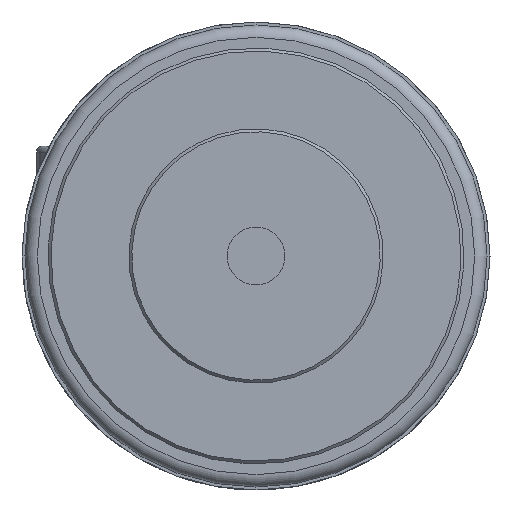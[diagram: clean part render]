
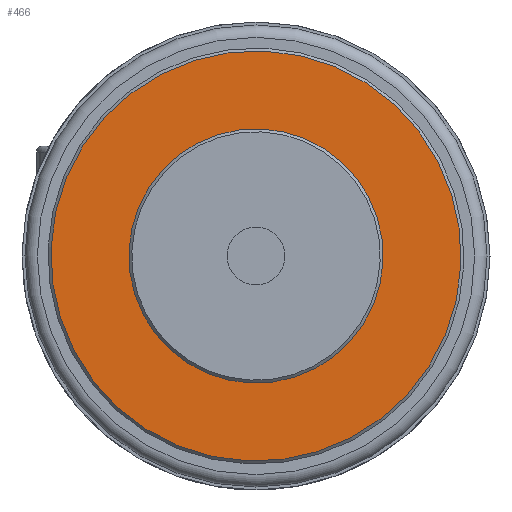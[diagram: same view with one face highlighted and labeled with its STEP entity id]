
A CAD part, left-side view. The second image highlights one B-rep face of the part: STEP entity #466.
In plain terms, the highlighted planar face has unit normal (-1, 0, 0) as drawn and (1, 0, 0) by its records, which use the part's own axes.
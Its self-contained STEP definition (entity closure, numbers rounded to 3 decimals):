
#466 = ADVANCED_FACE( '', ( #1002, #1003 ), #1004, .T. );
#1002 = FACE_OUTER_BOUND( '', #1689, .T. );
#1003 = FACE_BOUND( '', #1690, .T. );
#1004 = PLANE( '', #1691 );
#1689 = EDGE_LOOP( '', ( #2640 ) );
#1690 = EDGE_LOOP( '', ( #2641 ) );
#1691 = AXIS2_PLACEMENT_3D( '', #2642, #2643, #2644 );
#2640 = ORIENTED_EDGE( '', *, *, #3732, .T. );
#2641 = ORIENTED_EDGE( '', *, *, #3784, .T. );
#2642 = CARTESIAN_POINT( '', ( 6.5, 0., 18. ) );
#2643 = DIRECTION( '', ( 1., 0., 0. ) );
#2644 = DIRECTION( '', ( 0., 0., -1. ) );
#3732 = EDGE_CURVE( '', #4389, #4389, #4390, .T. );
#3784 = EDGE_CURVE( '', #4467, #4467, #4468, .T. );
#4389 = VERTEX_POINT( '', #5267 );
#4390 = CIRCLE( '', #5268, 17.75 );
#4467 = VERTEX_POINT( '', #5381 );
#4468 = CIRCLE( '', #5382, 11. );
#5267 = CARTESIAN_POINT( '', ( 6.5, 0., -17.75 ) );
#5268 = AXIS2_PLACEMENT_3D( '', #6196, #6197, #6198 );
#5381 = CARTESIAN_POINT( '', ( 6.5, 0., 11. ) );
#5382 = AXIS2_PLACEMENT_3D( '', #6261, #6262, #6263 );
#6196 = CARTESIAN_POINT( '', ( 6.5, 0., 0. ) );
#6197 = DIRECTION( '', ( 1., 0., 0. ) );
#6198 = DIRECTION( '', ( 0., 0., -1. ) );
#6261 = CARTESIAN_POINT( '', ( 6.5, 0., 0. ) );
#6262 = DIRECTION( '', ( -1., 0., 0. ) );
#6263 = DIRECTION( '', ( 0., 0., 1. ) );
